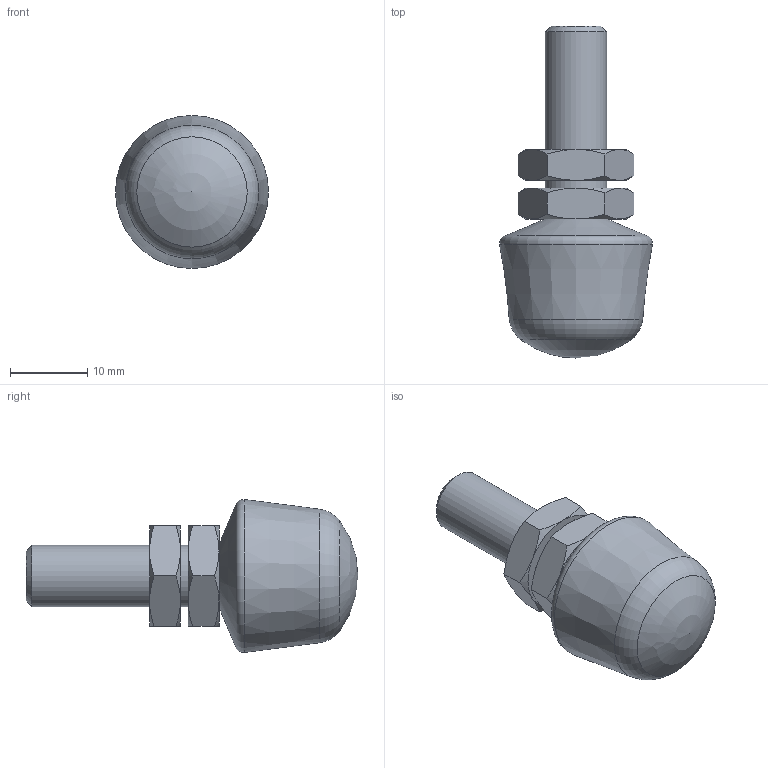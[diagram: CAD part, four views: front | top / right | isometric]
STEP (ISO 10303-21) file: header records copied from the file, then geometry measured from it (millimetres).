
FILE_DESCRIPTION( ( 'STEP AP203' ), '1' );
FILE_NAME( 'C:/Temp/Ganter_Step_05_03_2020/data/2_4/gn_708_1/gn_708_1_ni/Stainless Steel-Clamping bolt GN 708.1-M8-43-B-NI (0).stp', '2020-03-13T05:51:24', ( 'License CC BY-ND 4.0' ), ( 'CADENAS' ), ' ', 'PARTsolutions', ' ' );
FILE_SCHEMA( ( 'CONFIG_CONTROL_DESIGN' ) );
Length unit declared in the file: millimetre
Products named in the file (3): Stainless Steel-Clamping bolt GN 708.1-M8-43-B-NI (0); _Edelstahl-Andrueckschraube GN 708.1-M8-43-B-NI (0)-1; _Edelstahl-Andrueckschraube GN 708.1-M8-43-B-NI-2
Assembly tree (3 placements, depth 2):
  Stainless Steel-Clamping bolt GN 708.1-M8-43-B-NI (0)
    _Edelstahl-Andrueckschraube GN 708.1-M8-43-B-NI (0)-1
    _Edelstahl-Andrueckschraube GN 708.1-M8-43-B-NI-2  x2
Bounding box: 19.82 x 43 x 19.82 mm (x, y, z)
Volume: 6133.7 mm3; surface area: 2810 mm2
Topology: 3 solids, 3 shells, 54 faces, 114 edges, 65 vertices
Faces by surface type: cone 31, plane 17, cylinder 3, torus 2, sphere 1
Full cylindrical faces by diameter (mm): 6.647 x2, 8 x1
Entity records: 958 total; most frequent: CARTESIAN_POINT 261, DIRECTION 122, ORIENTED_EDGE 106, AXIS2_PLACEMENT_3D 58, EDGE_CURVE 53, EDGE_LOOP 42, VERTEX_POINT 37, FACE_OUTER_BOUND 35
